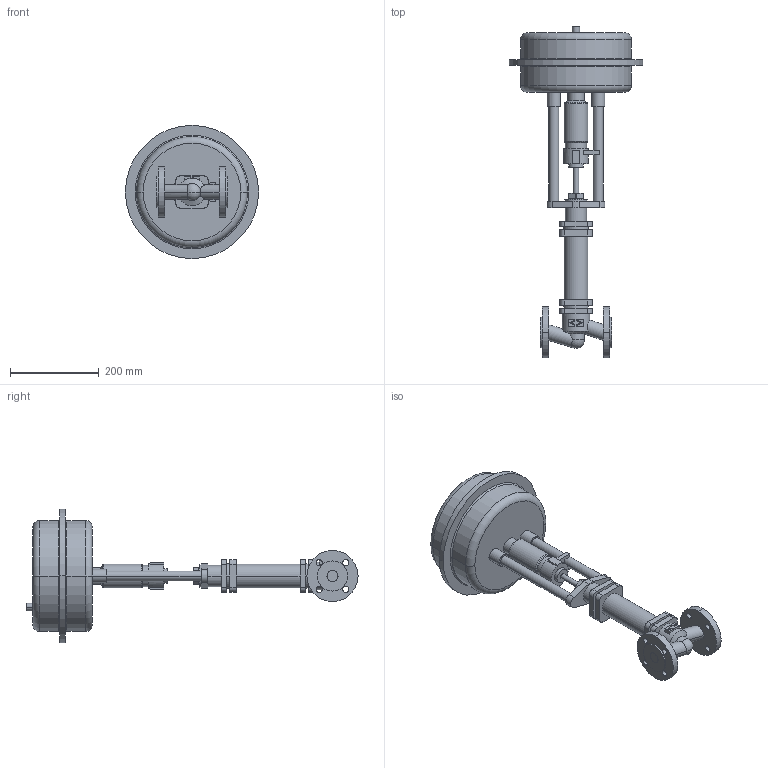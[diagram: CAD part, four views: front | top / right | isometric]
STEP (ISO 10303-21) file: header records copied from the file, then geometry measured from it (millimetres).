
FILE_DESCRIPTION(('OneSpaceDesigner STEP Export'),'2;1');
FILE_NAME('c000002076.stp','2005-12-12T11:14:53',(''),(''),'OneSpace Designer STEP processor for AP203 (Solid Model)','OneSpace Designer 13.20A 18-Aug-2005 (C) CoCreate Software GmbH','');
FILE_SCHEMA(('CONFIG_CONTROL_DESIGN'));
Length unit declared in the file: millimetre
Products named in the file (1): 1
Bounding box: 300 x 748.1 x 300 mm (x, y, z)
Volume: 8696385.6 mm3; surface area: 465037.2 mm2
Topology: 1 solids, 1 shells, 215 faces, 527 edges, 343 vertices
Faces by surface type: cylinder 102, plane 89, torus 16, cone 6, sphere 2
Entity records: 5998 total; most frequent: CARTESIAN_POINT 1143, ORIENTED_EDGE 1050, DIRECTION 915, EDGE_CURVE 525, VERTEX_POINT 343, AXIS2_PLACEMENT_3D 328, EDGE_LOOP 266, VECTOR 259
